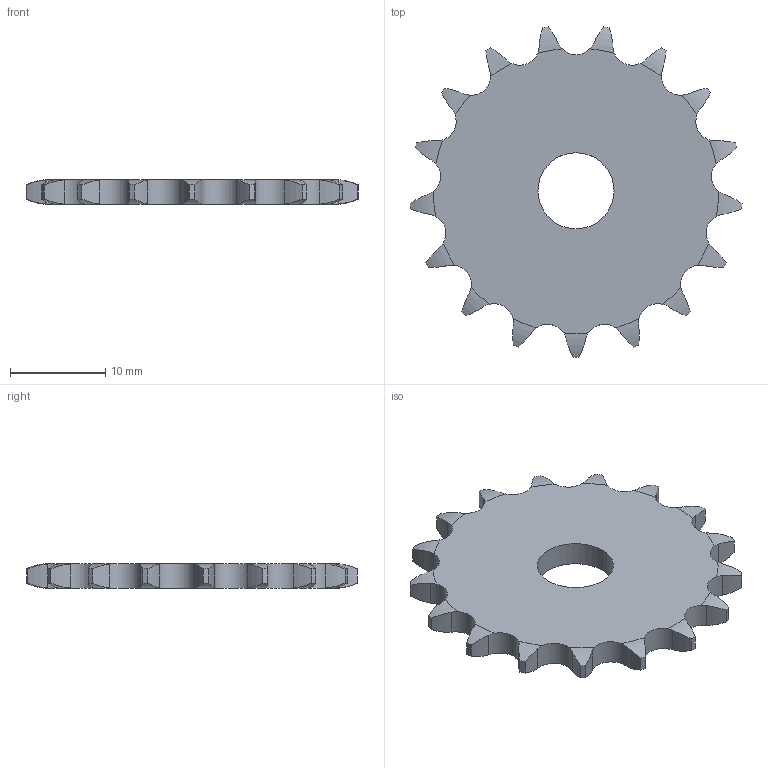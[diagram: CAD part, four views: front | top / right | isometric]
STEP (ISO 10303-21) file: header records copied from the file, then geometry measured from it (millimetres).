
FILE_DESCRIPTION((''),'2;1');
FILE_NAME('500-061-0017_PRT','2021-02-12T',('Brieden'),('Brieden'),'PRO/ENGINEER BY PARAMETRIC TECHNOLOGY CORPORATION, 2010160','PRO/ENGINEER BY PARAMETRIC TECHNOLOGY CORPORATION, 2010160','');
FILE_SCHEMA(('AUTOMOTIVE_DESIGN { 1 0 10303 214 1 1 1 1 }'));
Length unit declared in the file: millimetre
Products named in the file (1): 500-061-0017_PRT
Bounding box: 34.9 x 34.75 x 2.6 mm (x, y, z)
Volume: 1808.1 mm3; surface area: 1841.9 mm2
Topology: 1 solids, 1 shells, 106 faces, 312 edges, 208 vertices
Faces by surface type: cylinder 70, torus 34, plane 2
Entity records: 4938 total; most frequent: CARTESIAN_POINT 1267, ORIENTED_EDGE 624, DIRECTION 494, PRESENTATION_STYLE_ASSIGNMENT 313, STYLED_ITEM 313, CURVE_STYLE 312, EDGE_CURVE 312, AXIS2_PLACEMENT_3D 212
